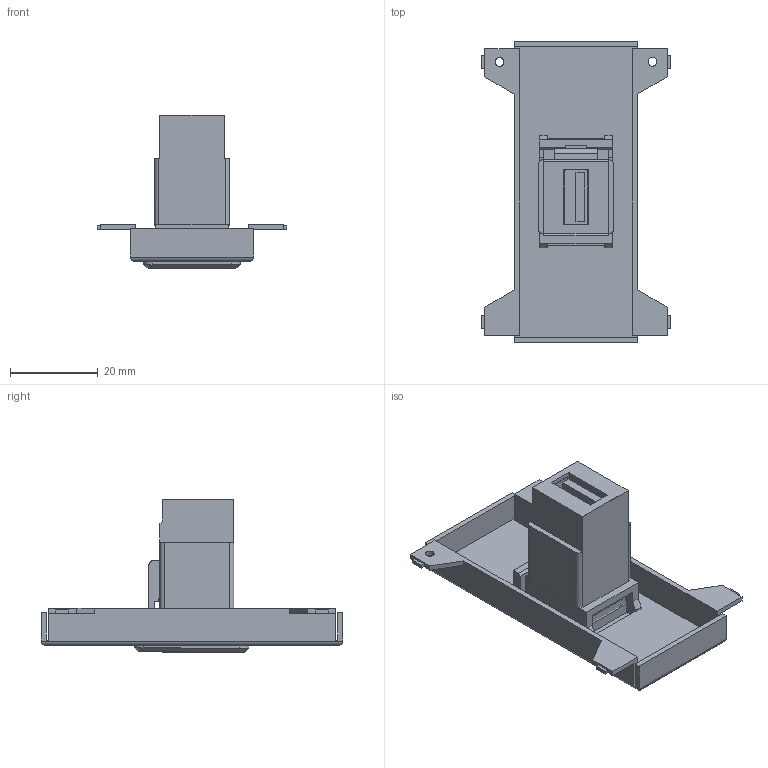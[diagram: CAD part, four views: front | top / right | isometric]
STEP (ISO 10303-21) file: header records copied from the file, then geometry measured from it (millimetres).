
FILE_DESCRIPTION(('FreeCAD Model'),'2;1');
FILE_NAME('Open CASCADE Shape Model','2026-09-15T13:50:35',(''),(''), 'Open CASCADE STEP processor 7.8','FreeCAD','Unknown');
FILE_SCHEMA(('AUTOMOTIVE_DESIGN { 1 0 10303 214 1 1 1 1 }'));
Length unit declared in the file: millimetre
Products named in the file (5): BTK_SIUSB3ACR_XX; 210USB05N2BK_SD; P_201795; P-201795; TB-037_3013BUS12xx_SD
Assembly tree (4 placements, depth 3):
  BTK_SIUSB3ACR_XX
    210USB05N2BK_SD
    P_201795
      P-201795
      TB-037_3013BUS12xx_SD
Bounding box: 43.2 x 68.7 x 35 mm (x, y, z)
Volume: 13197.8 mm3; surface area: 12791.8 mm2
Topology: 3 solids, 3 shells, 211 faces, 588 edges, 388 vertices
Faces by surface type: bspline 150, plane 51, cylinder 10
Full cylindrical faces by diameter (mm): 2 x2
Entity records: 8563 total; most frequent: CARTESIAN_POINT 4301, ORIENTED_EDGE 1176, EDGE_CURVE 588, B_SPLINE_CURVE_WITH_KNOTS 415, VERTEX_POINT 388, DIRECTION 321, FACE_BOUND 228, EDGE_LOOP 228
